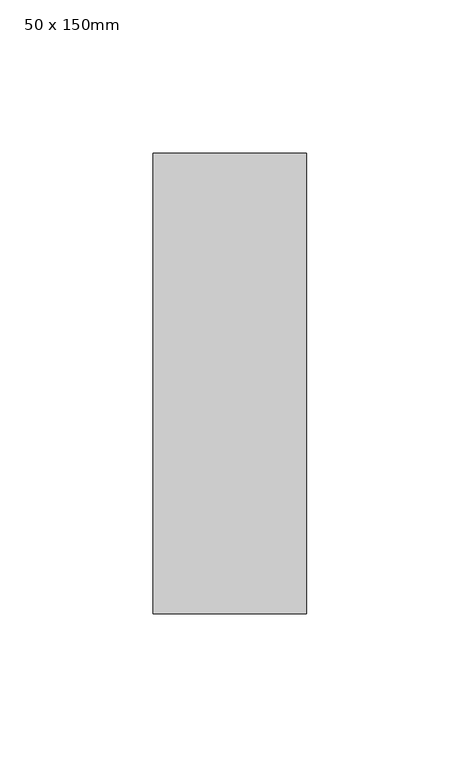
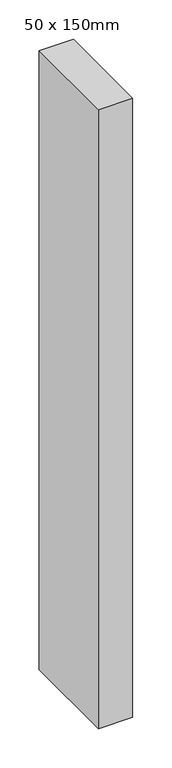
"""IFC4 building model written with IfcOpenShell, lengths in millimetres: member geometry, 矩形豎框 : 50 x 150mm."""

from ifc_helpers import new_model, si_unit, frame, origin, place, context, project, spatial, polyline, outline, extrude, source, transform, mapped, element, save


def member_50_x_150mm_0444148a(model_context):
    return source(origin(), model_context, "Body", "SweptSolid", [
        extrude(outline(polyline([(25.0, 75.0), (25.0, -75.0), (-25.0, -75.0), (-25.0, 75.0), (25.0, 75.0)])), frame((0.0, 0.0, -958.1595946), z_axis=(0.0, 0.0, 1.0), x_axis=(1.0, 0.0, 0.0)), (0.0, 0.0, 1.0), 958.1595946),
    ])


if __name__ == "__main__":
    model = new_model("IFC4")
    model_context = context("Model", 3, world=origin())
    ifc_project = project(units=[si_unit("LENGTHUNIT", "METRE", prefix="MILLI")], contexts=[model_context])
    site = spatial("IfcSite", under=ifc_project)
    building = spatial("IfcBuilding", under=site)
    placement = place(None, origin())
    member_50_x_150mm_shape = member_50_x_150mm_0444148a(model_context)
    element("IfcMember", 1, ObjectType="矩形豎框 : 50 x 150mm", at=placement, inside=building, context=model_context, shape_type="MappedRepresentation", body=[
        mapped(member_50_x_150mm_shape, transform((0.0, 0.0, 0.0), x_axis=(1.0, 0.0, 0.0), y_axis=(0.0, 1.0, 0.0), z_axis=(0.0, 0.0, 1.0))),
    ])
    save(model, "model.ifc")
